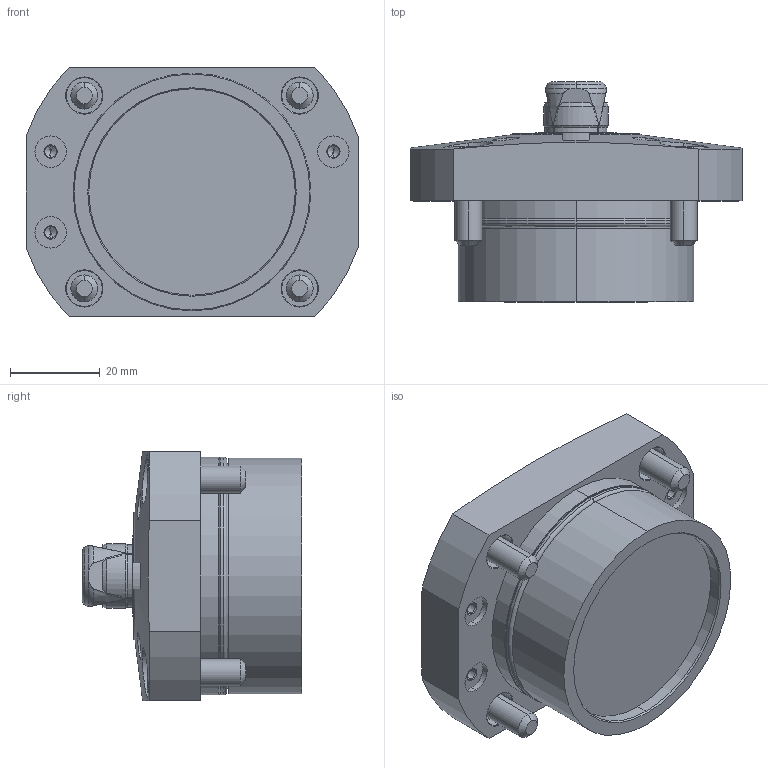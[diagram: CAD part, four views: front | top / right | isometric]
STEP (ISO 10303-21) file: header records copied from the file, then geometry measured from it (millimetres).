
FILE_DESCRIPTION (( 'STEP AP203' ), '1' );
FILE_NAME ('SFH3150.STEP', '2010-11-03T23:23:41', ( ' ' ), ( ' ' ), 'SwSTEP 2.0', 'SolidWorks 2010', '' );
FILE_SCHEMA (( 'CONFIG_CONTROL_DESIGN' ));
Length unit declared in the file: millimetre
Products named in the file (7): SFH3150; SFH3150_套菁轤礁诎蔬晅; SFH3_钾堇轤O剌皋晅; φ15_ｽﾘｰﾌﾞ; 冇15_郫霓; 6妏寠晅无倌_M3_10; 6妏寠晅无倌_M6_16
Assembly tree (14 placements, depth 2):
  SFH3150
    6妏寠晅无倌_M6_16  x4
    6妏寠晅无倌_M3_10  x6
    SFH3150_套菁轤礁诎蔬晅
    φ15_ｽﾘｰﾌﾞ
    冇15_郫霓
    SFH3_钾堇轤O剌皋晅
Bounding box: 74 x 49 x 55.5 mm (x, y, z)
Volume: 95900.2 mm3; surface area: 29987.4 mm2
Topology: 18 solids, 18 shells, 562 faces, 1143 edges, 628 vertices
Faces by surface type: plane 225, cone 180, cylinder 138, torus 19
Entity records: 10542 total; most frequent: CARTESIAN_POINT 2545, DIRECTION 1566, ORIENTED_EDGE 1398, EDGE_CURVE 699, AXIS2_PLACEMENT_3D 650, VERTEX_POINT 428, EDGE_LOOP 359, CIRCLE 319
